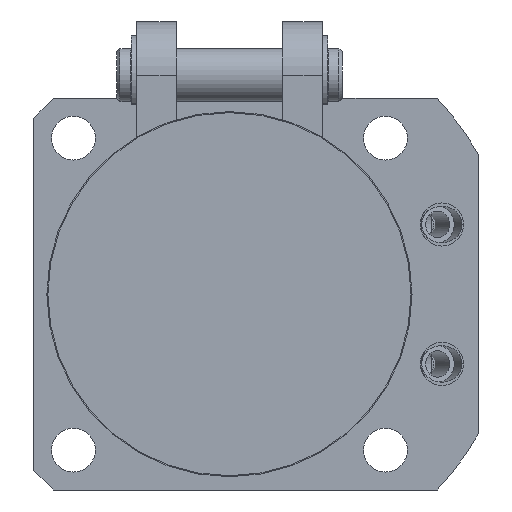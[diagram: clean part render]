
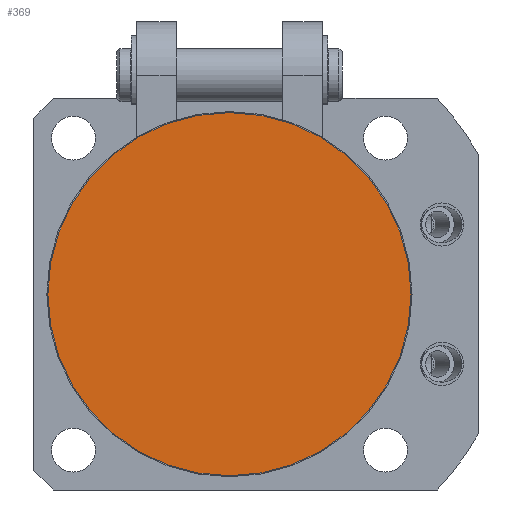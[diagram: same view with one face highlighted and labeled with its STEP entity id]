
A CAD part, front view. The second image highlights one B-rep face of the part: STEP entity #369.
In plain terms, the highlighted planar face has unit normal (0, -1, 0).
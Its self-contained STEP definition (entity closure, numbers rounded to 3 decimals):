
#369 = ADVANCED_FACE( '', ( #711 ), #712, .T. );
#711 = FACE_OUTER_BOUND( '', #1385, .T. );
#712 = PLANE( '', #1386 );
#1385 = EDGE_LOOP( '', ( #2219 ) );
#1386 = AXIS2_PLACEMENT_3D( '', #2220, #2221, #2222 );
#2219 = ORIENTED_EDGE( '', *, *, #4202, .T. );
#2220 = CARTESIAN_POINT( '', ( 0., -57., 0. ) );
#2221 = DIRECTION( '', ( 0., -1., 0. ) );
#2222 = DIRECTION( '', ( -1., 0., 0. ) );
#4202 = EDGE_CURVE( '', #4955, #4955, #4956, .T. );
#4955 = VERTEX_POINT( '', #6208 );
#4956 = CIRCLE( '', #6209, 27.35 );
#6208 = CARTESIAN_POINT( '', ( 27.35, -57., 0. ) );
#6209 = AXIS2_PLACEMENT_3D( '', #7736, #7737, #7738 );
#7736 = CARTESIAN_POINT( '', ( 0., -57., 0. ) );
#7737 = DIRECTION( '', ( 0., -1., 0. ) );
#7738 = DIRECTION( '', ( 1., 0., 0. ) );
